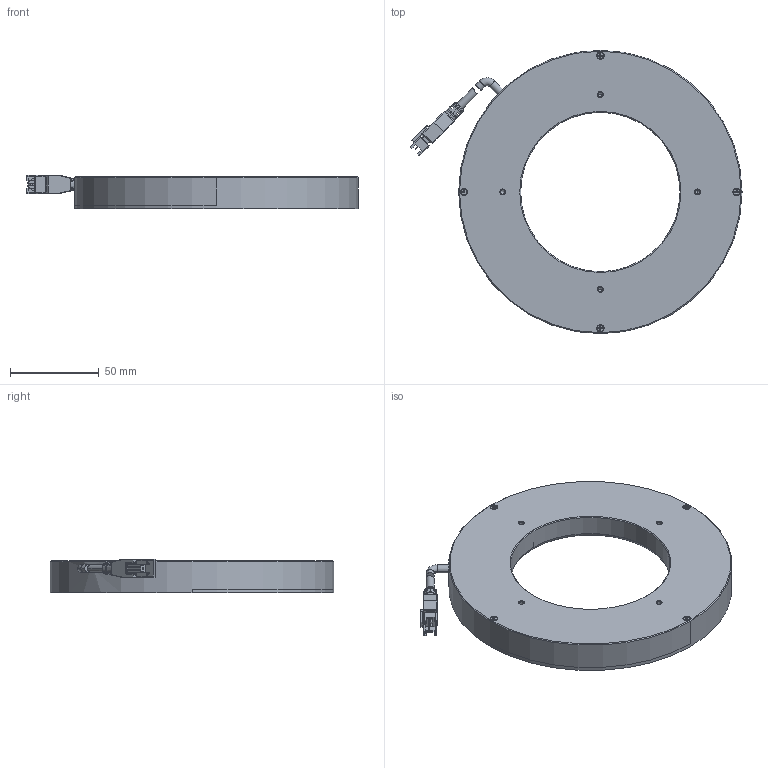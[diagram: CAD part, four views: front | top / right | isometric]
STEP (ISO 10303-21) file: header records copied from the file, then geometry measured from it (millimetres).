
FILE_DESCRIPTION((''),'2;1');
FILE_NAME('160-60','2024-01-30T14:05:12',('qiaoxuan5'),(''),'CREO PARAMETRIC BY PTC INC, 2020044','CREO PARAMETRIC BY PTC INC, 2020044','');
FILE_SCHEMA(('CONFIG_CONTROL_DESIGN'));
Length unit declared in the file: millimetre
Products named in the file (1): 160-60
Bounding box: 187.47 x 160 x 19 mm (x, y, z)
Volume: 238782.5 mm3; surface area: 53195.6 mm2
Topology: 2 solids, 38 shells, 735 faces, 1748 edges, 1067 vertices
Faces by surface type: plane 382, cylinder 216, cone 90, torus 30, sphere 8, bspline 8, extrusion 1
Entity records: 23350 total; most frequent: CARTESIAN_POINT 6461, DIRECTION 3571, ORIENTED_EDGE 3352, EDGE_CURVE 1716, AXIS2_PLACEMENT_3D 1282, VERTEX_POINT 1067, VECTOR 1007, LINE 1006
